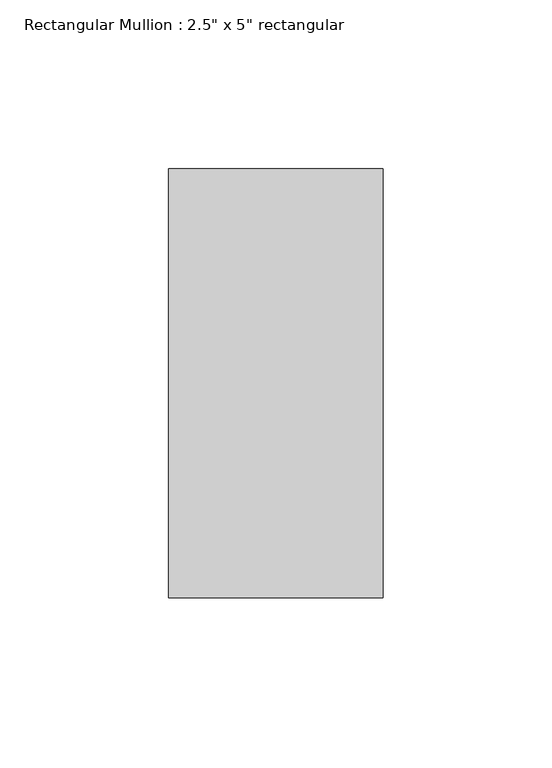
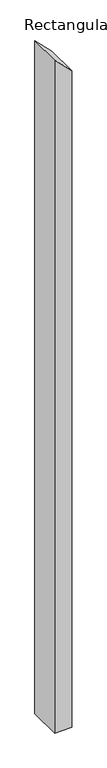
"""IFC4 building model written with IfcOpenShell, lengths in millimetres: member geometry."""

from ifc_helpers import new_model, si_unit, frame, origin, place, context, project, spatial, polyline, outline, extrude, source, transform, mapped, element, save


def member_dc9e00d1(model_context):
    return source(origin(), model_context, "Body", "SweptSolid", [
        extrude(outline(polyline([(-121.5525612, 31.75), (-58.0525612, -31.75), (-2711.4500002, -31.75), (-2711.4500002, 31.75), (-121.5525612, 31.75)])), frame((0.0, -63.5, 0.0), z_axis=(0.0, 1.0, 0.0), x_axis=(0.0, 0.0, 1.0)), (0.0, 0.0, 1.0), 127.0),
    ])


if __name__ == "__main__":
    model = new_model("IFC4")
    model_context = context("Model", 3, world=origin())
    ifc_project = project(units=[si_unit("LENGTHUNIT", "METRE", prefix="MILLI")], contexts=[model_context])
    site = spatial("IfcSite", under=ifc_project)
    building = spatial("IfcBuilding", under=site)
    placement = place(None, origin())
    member_shape = member_dc9e00d1(model_context)
    element("IfcMember", 1, ObjectType="Rectangular Mullion : 2.5\" x 5\" rectangular", at=placement, inside=building, context=model_context, shape_type="MappedRepresentation", body=[
        mapped(member_shape, transform((0.0, 0.0, 0.0), x_axis=(1.0, 0.0, 0.0), y_axis=(0.0, 1.0, 0.0), z_axis=(0.0, 0.0, 1.0))),
    ])
    save(model, "model.ifc")
